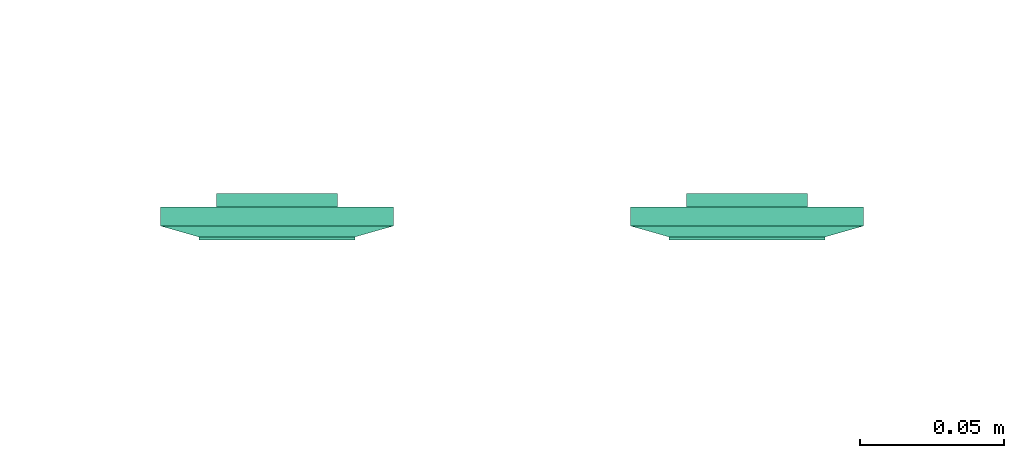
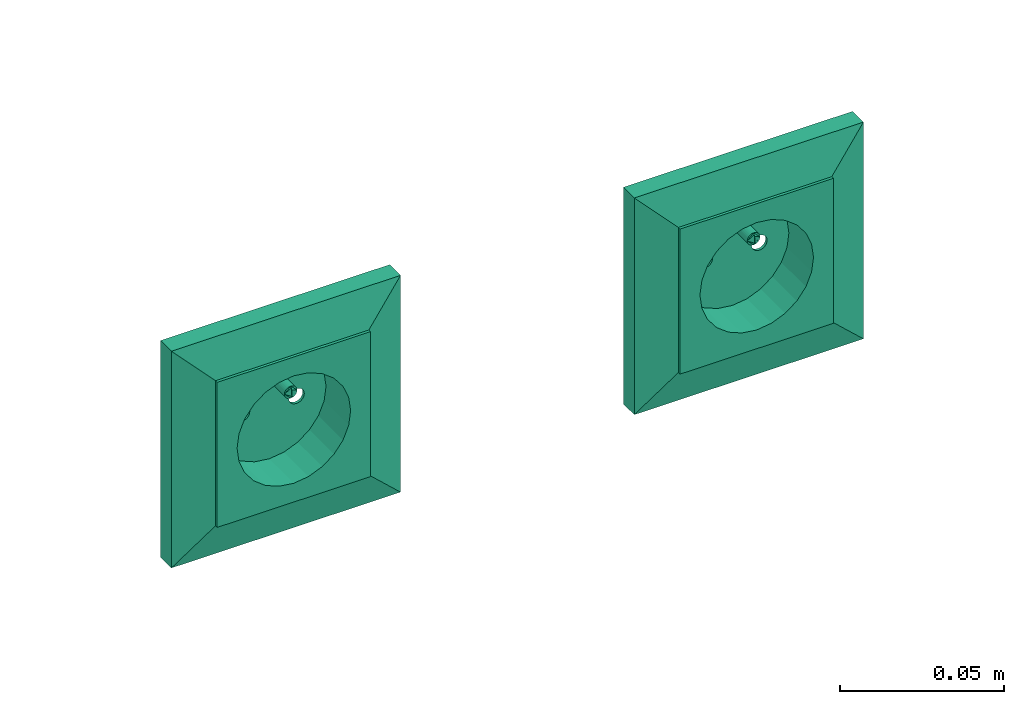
# One storey, part 48 of 146: 2 flow terminals.
"""IFC2X3 building model written with IfcOpenShell, lengths in metres."""

from ifc_helpers import new_model, entity, si_unit, converted_unit, derived_unit, direction, frame, origin, place, context, subcontext, project, spatial, face_set, surface_model, source, transform, mapped, type_object, type_shapes, element, save


model = new_model("IFC2X3")

# Units and contexts
model_context = context("Model", 3, precision=1e-05, world=origin(), true_north=direction((6.12303176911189e-17, 1.0)))
body_context = subcontext(model_context, "Body", "Model", "MODEL_VIEW")
ifc_project = project(units=[si_unit("LENGTHUNIT", "METRE"), si_unit("AREAUNIT", "SQUARE_METRE"), si_unit("VOLUMEUNIT", "CUBIC_METRE"), converted_unit("PLANEANGLEUNIT", "DEGREE", entity("IfcRatioMeasure", 0.0174532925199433), si_unit("PLANEANGLEUNIT", "RADIAN"), dimensions=[0, 0, 0, 0, 0, 0, 0]), si_unit("MASSUNIT", "GRAM", prefix="KILO"), derived_unit("MASSDENSITYUNIT", [(si_unit("MASSUNIT", "GRAM", prefix="KILO"), 1), (si_unit("LENGTHUNIT", "METRE"), -3)]), si_unit("TIMEUNIT", "SECOND"), si_unit("FREQUENCYUNIT", "HERTZ"), si_unit("THERMODYNAMICTEMPERATUREUNIT", "DEGREE_CELSIUS"), derived_unit("THERMALTRANSMITTANCEUNIT", [(si_unit("MASSUNIT", "GRAM", prefix="KILO"), 1), (si_unit("THERMODYNAMICTEMPERATUREUNIT", "KELVIN"), -1), (si_unit("TIMEUNIT", "SECOND"), -3)]), derived_unit("VOLUMETRICFLOWRATEUNIT", [(si_unit("LENGTHUNIT", "METRE"), 3), (si_unit("TIMEUNIT", "SECOND"), -1)]), si_unit("ELECTRICCURRENTUNIT", "AMPERE"), si_unit("ELECTRICVOLTAGEUNIT", "VOLT"), si_unit("POWERUNIT", "WATT"), si_unit("FORCEUNIT", "NEWTON"), si_unit("ILLUMINANCEUNIT", "LUX"), si_unit("LUMINOUSFLUXUNIT", "LUMEN"), si_unit("LUMINOUSINTENSITYUNIT", "CANDELA"), derived_unit("USERDEFINED", [(si_unit("MASSUNIT", "GRAM", prefix="KILO"), -1), (si_unit("LENGTHUNIT", "METRE"), -2), (si_unit("TIMEUNIT", "SECOND"), 3), (si_unit("LUMINOUSFLUXUNIT", "LUMEN"), 1)]), derived_unit("LINEARVELOCITYUNIT", [(si_unit("LENGTHUNIT", "METRE"), 1), (si_unit("TIMEUNIT", "SECOND"), -1)]), si_unit("PRESSUREUNIT", "PASCAL"), derived_unit("USERDEFINED", [(si_unit("LENGTHUNIT", "METRE"), -2), (si_unit("MASSUNIT", "GRAM", prefix="KILO"), 1), (si_unit("TIMEUNIT", "SECOND"), -2)])], contexts=[model_context])

# Site, building, storey
site_placement = place(None, origin())
site = spatial("IfcSite", under=ifc_project, at=site_placement, Name="Default", CompositionType="ELEMENT")
building_placement = place(site_placement, origin())
building = spatial("IfcBuilding", under=site, at=building_placement, CompositionType="ELEMENT")
storey_placement = place(building_placement, origin())
storey = spatial("IfcBuildingStorey", under=building, at=storey_placement, Name="S01", CompositionType="ELEMENT", Elevation=0.0)

# Flow terminals
light_fixture_type = type_object("IfcLightFixtureType", Name="IP20 ONDULEE", PredefinedType="NOTDEFINED")
shared_shape = source(origin(), body_context, "Body", "SurfaceModel", [
    surface_model("IfcFaceBasedSurfaceModel", [(-0.00225000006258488, 0.0127499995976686, 0.00949633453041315), (0.0, 0.0104999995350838, 0.00949633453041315), (0.0, 0.0115376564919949, 0.0101656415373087), (0.0, 0.0139623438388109, 0.0101656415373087), (0.0, 0.0144589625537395, 0.00984531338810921), (0.0, 0.0121178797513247, 0.0102778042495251), (0.0, 0.0133821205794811, 0.0102778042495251), (0.0, 0.0127499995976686, 0.010399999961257), (0.0, 0.0149999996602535, 0.00949633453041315), (0.00225000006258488, 0.0127499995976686, 0.00949633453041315), (0.0, 0.0110410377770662, 0.00984531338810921), (0.0, 0.0127499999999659, 0.00949633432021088), (0.00225000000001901, 0.0127499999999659, 0.00949633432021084), (0.00217333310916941, 0.0121676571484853, 0.00949633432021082), (0.00194855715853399, 0.0116249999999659, 0.00949633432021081), (0.00159099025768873, 0.0111590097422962, 0.00949633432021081), (0.001125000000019, 0.010801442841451, 0.00949633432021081), (0.00058234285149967, 0.0105766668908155, 0.00949633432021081), (0.0, 0.0104999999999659, 0.00949633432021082), (-0.000582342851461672, 0.0105766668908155, 0.00949633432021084), (-0.001124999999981, 0.010801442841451, 0.00949633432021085), (-0.00159099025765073, 0.0111590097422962, 0.00949633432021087), (-0.00194855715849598, 0.011624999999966, 0.00949633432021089), (-0.0021733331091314, 0.0121676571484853, 0.00949633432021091), (-0.00224999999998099, 0.012749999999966, 0.00949633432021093), (-0.00217333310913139, 0.0133323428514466, 0.00949633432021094), (-0.00194855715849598, 0.013874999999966, 0.00949633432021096), (-0.00159099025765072, 0.0143409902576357, 0.00949633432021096), (-0.00112499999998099, 0.0146985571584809, 0.00949633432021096), (-0.00058234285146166, 0.0149233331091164, 0.00949633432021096), (0.0, 0.0149999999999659, 0.00949633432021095), (0.000582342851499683, 0.0149233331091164, 0.00949633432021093), (0.00112500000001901, 0.0146985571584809, 0.00949633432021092), (0.00159099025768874, 0.0143409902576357, 0.00949633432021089), (0.001948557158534, 0.0138749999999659, 0.00949633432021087), (0.00217333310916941, 0.0133323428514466, 0.00949633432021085), (0.00225000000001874, 0.0127499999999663, -0.00360000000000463), (0.00217333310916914, 0.0121676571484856, -0.00360000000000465), (0.00194855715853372, 0.0116249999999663, -0.00360000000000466), (0.00159099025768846, 0.0111590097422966, -0.00360000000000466), (0.00112500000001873, 0.0108014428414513, -0.00360000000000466), (0.000582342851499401, 0.0105766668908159, -0.00360000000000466), (0.0, 0.0104999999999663, -0.00360000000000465), (-0.000582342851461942, 0.0105766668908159, -0.00360000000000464), (-0.00112499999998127, 0.0108014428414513, -0.00360000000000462), (-0.001590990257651, 0.0111590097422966, -0.0036000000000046), (-0.00194855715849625, 0.0116249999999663, -0.00360000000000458), (-0.00217333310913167, 0.0121676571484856, -0.00360000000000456), (-0.00224999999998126, 0.0127499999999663, -0.00360000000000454), (-0.00217333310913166, 0.013332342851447, -0.00360000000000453), (-0.00194855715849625, 0.0138749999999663, -0.00360000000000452), (-0.00159099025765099, 0.014340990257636, -0.00360000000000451), (-0.00112499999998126, 0.0146985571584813, -0.00360000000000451), (-0.000582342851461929, 0.0149233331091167, -0.00360000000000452), (0.0, 0.0149999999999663, -0.00360000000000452), (0.000582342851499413, 0.0149233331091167, -0.00360000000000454), (0.00112500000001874, 0.0146985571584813, -0.00360000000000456), (0.00159099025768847, 0.014340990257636, -0.00360000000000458), (0.00194855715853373, 0.0138749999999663, -0.0036000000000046), (0.00217333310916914, 0.013332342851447, -0.00360000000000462), (0.0270000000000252, 0.026999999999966, 0.0113999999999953), (-0.0269999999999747, 0.026999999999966, 0.0113999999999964), (-0.0269999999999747, -0.0270000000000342, 0.0113999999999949), (0.0270000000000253, -0.0270000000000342, 0.0113999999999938), (-0.0199999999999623, 0.0, 0.0113999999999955), (-0.0193185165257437, -0.00517638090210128, 0.0113999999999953), (-0.0173205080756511, -0.0100000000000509, 0.0113999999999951), (-0.0141421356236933, -0.0141421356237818, 0.011399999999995), (-0.00999999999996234, -0.0173205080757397, 0.0113999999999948), (-0.00517638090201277, -0.0193185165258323, 0.0113999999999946), (0.0, -0.0200000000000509, 0.0113999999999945), (0.00517638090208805, -0.0193185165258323, 0.0113999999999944), (0.0100000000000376, -0.0173205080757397, 0.0113999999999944), (0.0141421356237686, -0.0141421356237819, 0.0113999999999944), (0.0173205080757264, -0.010000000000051, 0.0113999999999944), (0.0193185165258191, -0.00517638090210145, 0.0113999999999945), (0.0200000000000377, 0.0, 0.0113999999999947), (0.0193185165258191, 0.00517638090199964, 0.0113999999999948), (0.0173205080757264, 0.0099999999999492, 0.011399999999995), (0.0141421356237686, 0.0141421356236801, 0.0113999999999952), (0.0100000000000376, 0.0173205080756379, 0.0113999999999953), (0.00517638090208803, 0.0193185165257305, 0.0113999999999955), (0.0, 0.0199999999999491, 0.0113999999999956), (-0.00517638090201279, 0.0193185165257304, 0.0113999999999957), (-0.00999999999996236, 0.0173205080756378, 0.0113999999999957), (-0.0141421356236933, 0.01414213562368, 0.0113999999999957), (-0.0173205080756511, 0.00999999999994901, 0.0113999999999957), (-0.0193185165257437, 0.00517638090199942, 0.0113999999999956), (0.0270000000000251, 0.0269999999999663, 0.00199999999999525), (0.0270000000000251, -0.0270000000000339, 0.00199999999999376), (-0.0269999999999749, -0.0270000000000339, 0.00199999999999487), (-0.0269999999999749, 0.0269999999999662, 0.00199999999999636), (0.0210000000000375, 0.0, 0.00199999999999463), (0.0202844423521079, -0.00543519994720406, 0.00199999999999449), (0.0181865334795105, -0.0105000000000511, 0.0019999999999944), (0.0148492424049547, -0.0148492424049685, 0.00199999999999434), (0.0105000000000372, -0.0181865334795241, 0.00199999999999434), (0.0054351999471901, -0.0202844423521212, 0.00199999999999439), (0.0, -0.0210000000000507, 0.00199999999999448), (-0.00543519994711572, -0.020284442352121, 0.00199999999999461), (-0.0104999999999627, -0.0181865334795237, 0.00199999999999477), (-0.0148492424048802, -0.014849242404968, 0.00199999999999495), (-0.0181865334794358, -0.0105000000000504, 0.00199999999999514), (-0.020284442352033, -0.00543519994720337, 0.00199999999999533), (-0.0209999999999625, 0.0, 0.00199999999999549), (-0.0202844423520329, 0.0054351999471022, 0.00199999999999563), (-0.0181865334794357, 0.0104999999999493, 0.00199999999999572), (-0.01484924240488, 0.0148492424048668, 0.00199999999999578), (-0.0104999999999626, 0.0181865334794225, 0.00199999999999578), (-0.00543519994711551, 0.0202844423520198, 0.00199999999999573), (0.0, 0.0209999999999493, 0.00199999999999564), (0.00543519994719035, 0.0202844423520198, 0.00199999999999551), (0.0105000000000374, 0.0181865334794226, 0.00199999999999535), (0.0148492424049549, 0.0148492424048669, 0.00199999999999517), (0.0181865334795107, 0.0104999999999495, 0.00199999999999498), (0.0202844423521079, 0.00543519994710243, 0.00199999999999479), (0.0200000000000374, 0.0, -0.00360000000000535), (0.0193185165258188, -0.00517638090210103, -0.00360000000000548), (0.0173205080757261, -0.0100000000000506, -0.00360000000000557), (0.0141421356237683, -0.0141421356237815, -0.00360000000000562), (0.0100000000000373, -0.0173205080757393, -0.00360000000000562), (0.00517638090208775, -0.0193185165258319, -0.00360000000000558), (0.0, -0.0200000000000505, -0.00360000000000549), (-0.00517638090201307, -0.0193185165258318, -0.00360000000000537), (-0.00999999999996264, -0.0173205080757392, -0.00360000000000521), (-0.0141421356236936, -0.0141421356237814, -0.00360000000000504), (-0.0173205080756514, -0.0100000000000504, -0.00360000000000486), (-0.019318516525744, -0.00517638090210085, -0.00360000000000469), (-0.0199999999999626, 0.0, -0.00360000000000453), (-0.0193185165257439, 0.00517638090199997, -0.0036000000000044), (-0.0173205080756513, 0.00999999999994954, -0.00360000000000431), (-0.0141421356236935, 0.0141421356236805, -0.00360000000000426), (-0.00999999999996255, 0.0173205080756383, -0.00360000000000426), (-0.00517638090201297, 0.0193185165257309, -0.0036000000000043), (0.0, 0.0199999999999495, -0.00360000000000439), (0.00517638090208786, 0.0193185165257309, -0.00360000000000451), (0.0100000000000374, 0.0173205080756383, -0.00360000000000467), (0.0141421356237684, 0.0141421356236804, -0.00360000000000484), (0.0173205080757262, 0.0099999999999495, -0.00360000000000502), (0.0193185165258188, 0.00517638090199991, -0.00360000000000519), (-0.0123499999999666, 0.0, -0.00360000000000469), (-0.0122562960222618, -0.000711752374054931, -0.00360000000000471), (-0.0119815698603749, -0.00137500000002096, -0.00360000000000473), (-0.0115445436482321, -0.00194454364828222, -0.00360000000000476), (-0.0109749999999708, -0.00238156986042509, -0.00360000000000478), (-0.0103117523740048, -0.00265629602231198, -0.0036000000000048), (-0.00959999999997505, -0.00275000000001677, -0.00360000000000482), (-0.0088882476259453, -0.00265629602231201, -0.00360000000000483), (-0.00822499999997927, -0.00238156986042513, -0.00360000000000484), (-0.00765545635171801, -0.00194454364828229, -0.00360000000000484), (-0.00721843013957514, -0.00137500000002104, -0.00360000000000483), (-0.00694370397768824, -0.000711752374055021, -0.00360000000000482), (-0.00684999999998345, 0.0, -0.0036000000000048), (-0.00694370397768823, 0.000711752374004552, -0.00360000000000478), (-0.00721843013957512, 0.00137499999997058, -0.00360000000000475), (-0.00765545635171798, 0.00194454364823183, -0.00360000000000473), (-0.00822499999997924, 0.00238156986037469, -0.0036000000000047), (-0.00888824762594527, 0.00265629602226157, -0.00360000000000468), (-0.00959999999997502, 0.00274999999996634, -0.00360000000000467), (-0.0103117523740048, 0.00265629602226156, -0.00360000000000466), (-0.0109749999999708, 0.00238156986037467, -0.00360000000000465), (-0.011544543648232, 0.00194454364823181, -0.00360000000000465), (-0.0119815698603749, 0.00137499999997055, -0.00360000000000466), (-0.0122562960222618, 0.000711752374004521, -0.00360000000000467), (0.00685000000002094, 0.0, -0.00360000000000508), (0.0069437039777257, -0.00071175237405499, -0.0036000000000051), (0.00721843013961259, -0.00137500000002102, -0.00360000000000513), (0.00765545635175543, -0.00194454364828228, -0.00360000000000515), (0.00822500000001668, -0.00238156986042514, -0.00360000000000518), (0.00888824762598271, -0.00265629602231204, -0.0036000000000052), (0.00960000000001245, -0.00275000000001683, -0.00360000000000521), (0.0103117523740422, -0.00265629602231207, -0.00360000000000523), (0.0109750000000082, -0.00238156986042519, -0.00360000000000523), (0.0115445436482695, -0.00194454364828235, -0.00360000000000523), (0.0119815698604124, -0.0013750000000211, -0.00360000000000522), (0.0122562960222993, -0.00071175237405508, -0.00360000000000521), (0.012350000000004, 0.0, -0.00360000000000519), (0.0122562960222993, 0.000711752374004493, -0.00360000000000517), (0.0119815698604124, 0.00137499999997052, -0.00360000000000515), (0.0115445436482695, 0.00194454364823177, -0.00360000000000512), (0.0109750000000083, 0.00238156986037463, -0.0036000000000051), (0.0103117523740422, 0.00265629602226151, -0.00360000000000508), (0.00960000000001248, 0.00274999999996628, -0.00360000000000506), (0.00888824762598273, 0.0026562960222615, -0.00360000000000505), (0.0082250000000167, 0.00238156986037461, -0.00360000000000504), (0.00765545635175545, 0.00194454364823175, -0.00360000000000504), (0.0072184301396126, 0.00137499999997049, -0.00360000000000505), (0.00694370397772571, 0.000711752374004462, -0.00360000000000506), (0.0210000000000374, 0.0, -0.00460000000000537), (0.0202844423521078, -0.00543519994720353, -0.00460000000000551), (0.0181865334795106, -0.0105000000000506, -0.0046000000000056), (0.0148492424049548, -0.0148492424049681, -0.00460000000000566), (0.0105000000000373, -0.0181865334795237, -0.00460000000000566), (0.00543519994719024, -0.0202844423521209, -0.00460000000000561), (0.0, -0.0210000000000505, -0.00460000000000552), (-0.00543519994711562, -0.0202844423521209, -0.00460000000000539), (-0.0104999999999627, -0.0181865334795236, -0.00460000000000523), (-0.0148492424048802, -0.0148492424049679, -0.00460000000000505), (-0.0181865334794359, -0.0105000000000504, -0.00460000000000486), (-0.0202844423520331, -0.00543519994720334, -0.00460000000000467), (-0.0209999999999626, 0.0, -0.00460000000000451), (-0.020284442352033, 0.00543519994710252, -0.00460000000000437), (-0.0181865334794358, 0.0104999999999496, -0.00460000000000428), (-0.0148492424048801, 0.0148492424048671, -0.00460000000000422), (-0.0104999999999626, 0.0181865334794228, -0.00460000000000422), (-0.00543519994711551, 0.02028444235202, -0.00460000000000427), (0.0, 0.0209999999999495, -0.00460000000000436), (0.00543519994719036, 0.02028444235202, -0.00460000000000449), (0.0105000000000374, 0.0181865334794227, -0.00460000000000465), (0.0148492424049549, 0.014849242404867, -0.00460000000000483), (0.0181865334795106, 0.0104999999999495, -0.00460000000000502), (0.0202844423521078, 0.00543519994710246, -0.00460000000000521), (-0.00684999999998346, 0.0, -0.0046000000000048), (-0.00694370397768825, 0.000711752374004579, -0.00460000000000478), (-0.00721843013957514, 0.00137499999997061, -0.00460000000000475), (-0.007655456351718, 0.00194454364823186, -0.00460000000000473), (-0.00822499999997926, 0.00238156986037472, -0.0046000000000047), (-0.00888824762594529, 0.0026562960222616, -0.00460000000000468), (-0.00959999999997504, 0.00274999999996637, -0.00460000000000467), (-0.0103117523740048, 0.00265629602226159, -0.00460000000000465), (-0.0109749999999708, 0.0023815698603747, -0.00460000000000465), (-0.0115445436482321, 0.00194454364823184, -0.00460000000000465), (-0.0119815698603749, 0.00137499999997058, -0.00460000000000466), (-0.0122562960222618, 0.000711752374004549, -0.00460000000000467), (-0.0123499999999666, 0.0, -0.00460000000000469), (-0.0122562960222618, -0.000711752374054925, -0.00460000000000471), (-0.0119815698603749, -0.00137500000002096, -0.00460000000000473), (-0.0115445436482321, -0.00194454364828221, -0.00460000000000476), (-0.0109749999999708, -0.00238156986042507, -0.00460000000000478), (-0.0103117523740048, -0.00265629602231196, -0.0046000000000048), (-0.00959999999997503, -0.00275000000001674, -0.00460000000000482), (-0.00888824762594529, -0.00265629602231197, -0.00460000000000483), (-0.00822499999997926, -0.00238156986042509, -0.00460000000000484), (-0.007655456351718, -0.00194454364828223, -0.00460000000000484), (-0.00721843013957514, -0.00137500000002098, -0.00460000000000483), (-0.00694370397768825, -0.000711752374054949, -0.00460000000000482), (0.012350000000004, 0.0, -0.00460000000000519), (0.0122562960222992, 0.000711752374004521, -0.00460000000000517), (0.0119815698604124, 0.00137499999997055, -0.00460000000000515), (0.0115445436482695, 0.0019445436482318, -0.00460000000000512), (0.0109750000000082, 0.00238156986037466, -0.0046000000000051), (0.0103117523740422, 0.00265629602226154, -0.00460000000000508), (0.00960000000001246, 0.00274999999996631, -0.00460000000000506), (0.00888824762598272, 0.00265629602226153, -0.00460000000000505), (0.00822500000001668, 0.00238156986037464, -0.00460000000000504), (0.00765545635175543, 0.00194454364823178, -0.00460000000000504), (0.00721843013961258, 0.00137499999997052, -0.00460000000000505), (0.00694370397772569, 0.00071175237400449, -0.00460000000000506), (0.00685000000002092, 0.0, -0.00460000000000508), (0.00694370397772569, -0.000711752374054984, -0.0046000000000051), (0.00721843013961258, -0.00137500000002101, -0.00460000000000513), (0.00765545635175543, -0.00194454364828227, -0.00460000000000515), (0.00822500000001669, -0.00238156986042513, -0.00460000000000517), (0.00888824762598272, -0.00265629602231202, -0.0046000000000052), (0.00960000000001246, -0.0027500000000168, -0.00460000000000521), (0.0103117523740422, -0.00265629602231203, -0.00460000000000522), (0.0109750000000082, -0.00238156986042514, -0.00460000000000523), (0.0115445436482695, -0.00194454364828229, -0.00460000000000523), (0.0119815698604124, -0.00137500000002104, -0.00460000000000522), (0.0122562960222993, -0.000711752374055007, -0.00460000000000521), (0.040350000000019, 0.0403499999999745, 0.00659999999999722), (0.040350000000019, -0.0403500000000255, 0.00659999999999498), (-0.0403499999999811, -0.0403500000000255, 0.00659999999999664), (-0.0403499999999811, 0.0403499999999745, 0.00659999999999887), (0.027000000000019, 0.0269999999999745, 0.00659999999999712), (-0.0269999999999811, 0.0269999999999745, 0.00659999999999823), (-0.026999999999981, -0.0270000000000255, 0.00659999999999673), (0.027000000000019, -0.0270000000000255, 0.00659999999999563), (0.027000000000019, 0.0269999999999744, 0.0103999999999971), (-0.026999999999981, 0.0269999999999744, 0.0103999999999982), (-0.026999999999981, -0.0270000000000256, 0.0103999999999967), (0.027000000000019, -0.0270000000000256, 0.0103999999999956), (0.040350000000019, 0.0403499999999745, 0.00659999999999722), (0.040350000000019, -0.0403500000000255, 0.00659999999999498), (-0.0403499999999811, -0.0403500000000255, 0.00659999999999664), (-0.0403499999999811, 0.0403499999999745, 0.00659999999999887), (-0.0269999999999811, 0.0269999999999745, 0.00659999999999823), (-0.0269999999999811, -0.0270000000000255, 0.00659999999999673), (0.0270000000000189, -0.0270000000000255, 0.00659999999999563), (0.0270000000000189, 0.0269999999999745, 0.00659999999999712), (0.0403500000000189, 0.0403499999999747, 0.0), (0.0403500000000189, -0.0403500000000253, 0.0), (-0.0403499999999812, -0.0403500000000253, 0.0), (-0.0403499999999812, 0.0403499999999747, 0.0), (0.0270000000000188, 0.0269999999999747, 0.0), (-0.0269999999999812, 0.0269999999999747, 0.0), (-0.0269999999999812, -0.0270000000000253, 0.0), (0.0270000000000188, -0.0270000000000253, 0.0)], [face_set([[[0, 1, 2]], [[3, 4, 2, 5]], [[6, 3, 5, 7]], [[2, 4, 0]], [[4, 8, 0]], [[3, 9, 8]], [[1, 9, 10]], [[2, 3, 6, 7]], [[3, 10, 9]], [[2, 10, 3]], [[11, 1, 0, 8]], [[11, 8, 9, 1]]]), face_set([[[12, 13, 14, 15, 16, 17, 18, 19, 20, 21, 22, 23, 24, 25, 26, 27, 28, 29, 30, 31, 32, 33, 34, 35]], [[36, 37, 38, 39, 40, 41, 42, 43, 44, 45, 46, 47, 48, 49, 50, 51, 52, 53, 54, 55, 56, 57, 58, 59]], [[48, 47, 23, 24]], [[47, 46, 22, 23]], [[45, 44, 20, 21]], [[46, 45, 21, 22]], [[44, 43, 19, 20]], [[18, 19, 43, 42]], [[42, 41, 17, 18]], [[41, 40, 16, 17]], [[39, 38, 14, 15]], [[40, 39, 15, 16]], [[38, 37, 13, 14]], [[12, 13, 37, 36]], [[36, 59, 35, 12]], [[59, 58, 34, 35]], [[57, 56, 32, 33]], [[58, 57, 33, 34]], [[56, 55, 31, 32]], [[30, 31, 55, 54]], [[54, 53, 29, 30]], [[53, 52, 28, 29]], [[51, 50, 26, 27]], [[52, 51, 27, 28]], [[50, 49, 25, 26]], [[24, 25, 49, 48]]]), face_set([[[60, 61, 62, 63], [64, 65, 66, 67, 68, 69, 70, 71, 72, 73, 74, 75, 76, 77, 78, 79, 80, 81, 82, 83, 84, 85, 86, 87]], [[88, 89, 90, 91], [92, 93, 94, 95, 96, 97, 98, 99, 100, 101, 102, 103, 104, 105, 106, 107, 108, 109, 110, 111, 112, 113, 114, 115]], [[61, 60, 88, 91]], [[62, 61, 91, 90]], [[63, 62, 90, 89]], [[60, 63, 89, 88]], [[116, 117, 118, 119, 120, 121, 122, 123, 124, 125, 126, 127, 128, 129, 130, 131, 132, 133, 134, 135, 136, 137, 138, 139], [140, 141, 142, 143, 144, 145, 146, 147, 148, 149, 150, 151, 152, 153, 154, 155, 156, 157, 158, 159, 160, 161, 162, 163], [164, 165, 166, 167, 168, 169, 170, 171, 172, 173, 174, 175, 176, 177, 178, 179, 180, 181, 182, 183, 184, 185, 186, 187]], [[64, 128, 127, 65]], [[65, 127, 126, 66]], [[67, 125, 124, 68]], [[66, 126, 125, 67]], [[68, 124, 123, 69]], [[122, 70, 69, 123]], [[70, 122, 121, 71]], [[71, 121, 120, 72]], [[73, 119, 118, 74]], [[72, 120, 119, 73]], [[74, 118, 117, 75]], [[116, 76, 75, 117]], [[76, 116, 139, 77]], [[77, 139, 138, 78]], [[79, 137, 136, 80]], [[78, 138, 137, 79]], [[80, 136, 135, 81]], [[134, 82, 81, 135]], [[82, 134, 133, 83]], [[83, 133, 132, 84]], [[84, 132, 131, 85]], [[85, 131, 130, 86]], [[130, 129, 87, 86]], [[64, 87, 129, 128]], [[188, 189, 190, 191, 192, 193, 194, 195, 196, 197, 198, 199, 200, 201, 202, 203, 204, 205, 206, 207, 208, 209, 210, 211], [212, 213, 214, 215, 216, 217, 218, 219, 220, 221, 222, 223, 224, 225, 226, 227, 228, 229, 230, 231, 232, 233, 234, 235], [236, 237, 238, 239, 240, 241, 242, 243, 244, 245, 246, 247, 248, 249, 250, 251, 252, 253, 254, 255, 256, 257, 258, 259]], [[200, 199, 103, 104]], [[199, 198, 102, 103]], [[197, 196, 100, 101]], [[198, 197, 101, 102]], [[196, 195, 99, 100]], [[98, 99, 195, 194]], [[194, 193, 97, 98]], [[193, 192, 96, 97]], [[191, 190, 94, 95]], [[192, 191, 95, 96]], [[190, 189, 93, 94]], [[92, 93, 189, 188]], [[188, 211, 115, 92]], [[211, 210, 114, 115]], [[209, 208, 112, 113]], [[210, 209, 113, 114]], [[208, 207, 111, 112]], [[110, 111, 207, 206]], [[206, 205, 109, 110]], [[205, 204, 108, 109]], [[203, 202, 106, 107]], [[204, 203, 107, 108]], [[202, 201, 105, 106]], [[104, 105, 201, 200]], [[141, 225, 226, 142]], [[140, 224, 225, 141]], [[144, 228, 229, 145]], [[143, 227, 228, 144]], [[142, 226, 227, 143]], [[230, 146, 145, 229]], [[149, 233, 232, 148]], [[148, 232, 231, 147]], [[152, 212, 235, 151]], [[151, 235, 234, 150]], [[150, 234, 233, 149]], [[146, 230, 231, 147]], [[154, 214, 213, 153]], [[153, 213, 212, 152]], [[157, 217, 216, 156]], [[156, 216, 215, 155]], [[155, 215, 214, 154]], [[218, 158, 157, 217]], [[160, 220, 221, 161]], [[159, 219, 220, 160]], [[163, 223, 224, 140]], [[162, 222, 223, 163]], [[161, 221, 222, 162]], [[158, 218, 219, 159]], [[166, 250, 249, 165]], [[165, 249, 248, 164]], [[169, 253, 252, 168]], [[168, 252, 251, 167]], [[167, 251, 250, 166]], [[254, 170, 169, 253]], [[172, 256, 257, 173]], [[171, 255, 256, 172]], [[175, 259, 236, 176]], [[174, 258, 259, 175]], [[173, 257, 258, 174]], [[170, 254, 255, 171]], [[177, 237, 238, 178]], [[176, 236, 237, 177]], [[180, 240, 241, 181]], [[179, 239, 240, 180]], [[178, 238, 239, 179]], [[242, 182, 181, 241]], [[185, 245, 244, 184]], [[184, 244, 243, 183]], [[164, 248, 247, 187]], [[187, 247, 246, 186]], [[186, 246, 245, 185]], [[182, 242, 243, 183]]]), face_set([[[260, 261, 262, 263], [264, 265, 266, 267]], [[260, 268, 269, 263]], [[263, 269, 270, 262]], [[262, 270, 271, 261]], [[261, 271, 268, 260]], [[264, 265, 269, 268]], [[265, 266, 270, 269]], [[266, 267, 271, 270]], [[268, 271, 267, 264]]]), face_set([[[272, 273, 274, 275], [276, 277, 278, 279]], [[280, 281, 282, 283], [284, 285, 286, 287]], [[275, 272, 280, 283]], [[274, 275, 283, 282]], [[273, 274, 282, 281]], [[272, 273, 281, 280]], [[284, 285, 276, 279]], [[285, 286, 277, 276]], [[286, 287, 278, 277]], [[279, 278, 287, 284]]])]),
])
type_shapes(light_fixture_type, [shared_shape])
for number, where, z_axis, x_axis in (
    (1, (50.6379967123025, -190.689444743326, 0.320000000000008), (0.0, -1.0, 0.0), (1.0, 0.0, 0.0)),
    (2, (50.8009967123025, -190.689444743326, 0.320000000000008), (0.0, -1.0, 0.0), (1.0, 0.0, 0.0)),
):
    element("IfcFlowTerminal", number, at=place(storey_placement, frame(where, z_axis=z_axis, x_axis=x_axis)), inside=storey, type_object=light_fixture_type, Name="INT Prise de courant:IP20 ONDULEE", ObjectType="INT Prise de courant:IP20 ONDULEE", context=body_context, shape_type="MappedRepresentation", body=[
        mapped(shared_shape, transform((0.0, 0.0, 0.0), scale=1.0)),
    ])

save(model, "model.ifc")
